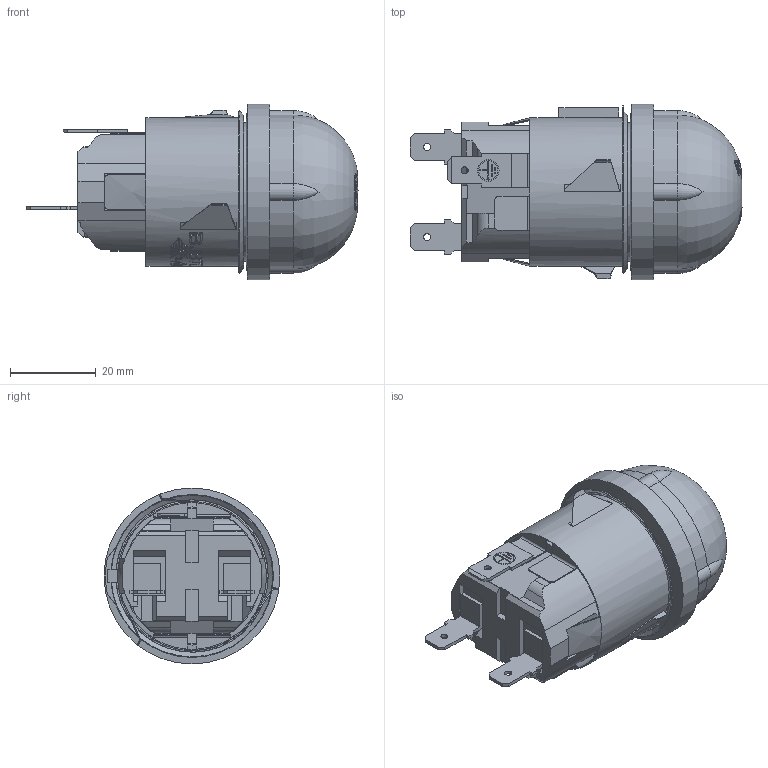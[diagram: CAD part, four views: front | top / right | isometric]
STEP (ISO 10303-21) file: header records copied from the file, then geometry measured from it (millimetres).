
FILE_DESCRIPTION(/* description */ ('Unknown'),/* implementation_level */ '2;1');
FILE_NAME(/* name */ '011-V6X-03',/* time_stamp */ '2023-12-08T10:19:22+01:00',/* author */ ('Unknown'),/* organization */ ('Unknown'),/* preprocessor_version */ 'ST-DEVELOPER v16.7',/* originating_system */ 'Solid Edge',/* authorisation */ 'Unknown');
FILE_SCHEMA (('AUTOMOTIVE_DESIGN {1 0 10303 214 3 1 1}'));
Length unit declared in the file: millimetre
Products named in the file (7): 011-V6X-03; 002-17E-06; 016-N37-02; 00Z-Z2V-01; 011-V0J-05; 002-10C-01; 011-V0H-05
Assembly tree (6 placements, depth 3):
  011-V6X-03
    002-17E-06
    016-N37-02
    00Z-Z2V-01
    011-V0J-05
      002-10C-01
      011-V0H-05
Bounding box: 77.41 x 41 x 41 mm (x, y, z)
Volume: 34639.9 mm3; surface area: 21973.6 mm2
Topology: 8 solids, 8 shells, 1025 faces, 2659 edges, 1720 vertices
Faces by surface type: plane 681, cylinder 188, bspline 85, torus 60, cone 10, sphere 1
Full cylindrical faces by diameter (mm): 0.5 x4, 1.101 x1, 1.395 x1, 1.65 x3, 4.3 x2, 4.5 x1, 5 x1, 32.2 x1, 34.196 x1, 34.696 x1, 41 x1
Entity records: 35399 total; most frequent: CARTESIAN_POINT 9451, ORIENTED_EDGE 5156, DIRECTION 4757, EDGE_CURVE 2578, AXIS2_PLACEMENT_3D 1711, VERTEX_POINT 1698, LINE 1335, VECTOR 1335
